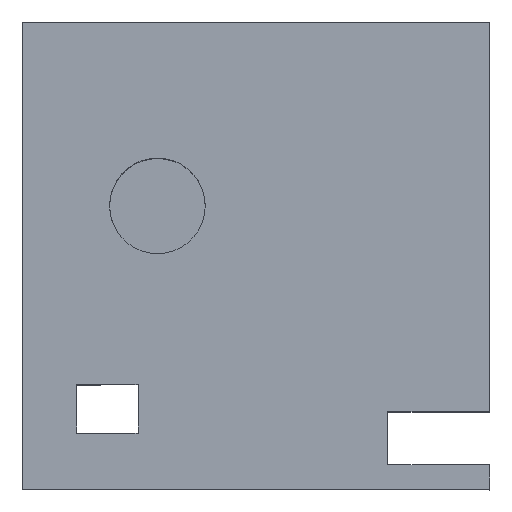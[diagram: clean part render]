
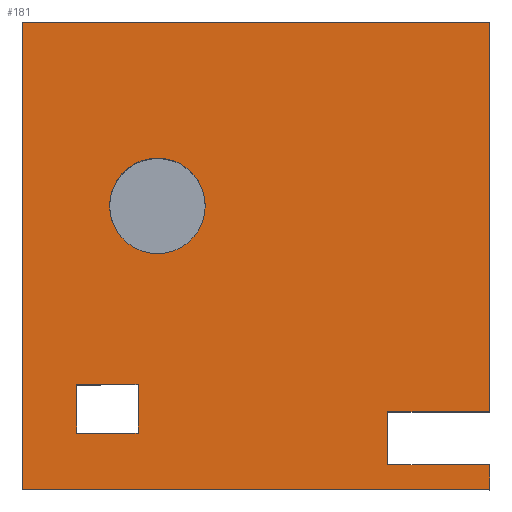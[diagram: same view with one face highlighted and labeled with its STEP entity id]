
A CAD part, top view. The second image highlights one B-rep face of the part: STEP entity #181.
In plain terms, the highlighted planar face has unit normal (0, 0, 1).
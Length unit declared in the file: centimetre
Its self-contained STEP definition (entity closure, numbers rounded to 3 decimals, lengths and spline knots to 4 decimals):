
#2 = LINE ( 'NONE', #555, #826 ) ;
#7 = EDGE_CURVE ( 'NONE', #724, #1036, #436, .T. ) ;
#19 = DIRECTION ( 'NONE',  ( 0., 1., 0. ) ) ;
#39 = ORIENTED_EDGE ( 'NONE', *, *, #7, .T. ) ;
#41 = LINE ( 'NONE', #58, #55 ) ;
#54 = LINE ( 'NONE', #763, #896 ) ;
#55 = VECTOR ( 'NONE', #164, 100. ) ;
#58 = CARTESIAN_POINT ( 'NONE',  ( 116.3312, 120.2138, 1000. ) ) ;
#68 = VERTEX_POINT ( 'NONE', #868 ) ;
#75 = LINE ( 'NONE', #497, #447 ) ;
#89 = VERTEX_POINT ( 'NONE', #1447 ) ;
#126 = EDGE_CURVE ( 'NONE', #89, #1160, #1143, .T. ) ;
#134 = LINE ( 'NONE', #1253, #885 ) ;
#144 = ORIENTED_EDGE ( 'NONE', *, *, #448, .F. ) ;
#157 = CARTESIAN_POINT ( 'NONE',  ( 1000., 1000., 1000. ) ) ;
#162 = AXIS2_PLACEMENT_3D ( 'NONE', #1196, #917, #492 ) ;
#164 = DIRECTION ( 'NONE',  ( 1., 0., 0. ) ) ;
#181 = ADVANCED_FACE ( 'NONE', ( #703, #265, #402 ), #962, .T. ) ;
#199 = VECTOR ( 'NONE', #708, 100. ) ;
#205 = ORIENTED_EDGE ( 'NONE', *, *, #718, .T. ) ;
#250 = EDGE_CURVE ( 'NONE', #1476, #1177, #1538, .T. ) ;
#253 = CARTESIAN_POINT ( 'NONE',  ( 1000., 166.403, 1000. ) ) ;
#265 = FACE_BOUND ( 'NONE', #558, .T. ) ;
#272 = EDGE_CURVE ( 'NONE', #324, #1565, #2, .T. ) ;
#303 = DIRECTION ( 'NONE',  ( -1., 0., 0. ) ) ;
#324 = VERTEX_POINT ( 'NONE', #355 ) ;
#340 = ORIENTED_EDGE ( 'NONE', *, *, #1600, .F. ) ;
#355 = CARTESIAN_POINT ( 'NONE',  ( 0., 0., 1000. ) ) ;
#402 = FACE_BOUND ( 'NONE', #1264, .T. ) ;
#412 = CARTESIAN_POINT ( 'NONE',  ( 247.5059, 120.2138, 1000. ) ) ;
#436 = LINE ( 'NONE', #720, #676 ) ;
#447 = VECTOR ( 'NONE', #628, 100. ) ;
#448 = EDGE_CURVE ( 'NONE', #1141, #919, #768, .T. ) ;
#451 = EDGE_CURVE ( 'NONE', #1299, #878, #523, .T. ) ;
#452 = ORIENTED_EDGE ( 'NONE', *, *, #250, .F. ) ;
#460 = EDGE_LOOP ( 'NONE', ( #1357, #205, #39, #1367, #1505, #493, #771, #1197 ) ) ;
#492 = DIRECTION ( 'NONE',  ( 1., 0., 0. ) ) ;
#493 = ORIENTED_EDGE ( 'NONE', *, *, #1085, .T. ) ;
#497 = CARTESIAN_POINT ( 'NONE',  ( 782.0774, 52.6347, 1000. ) ) ;
#501 = AXIS2_PLACEMENT_3D ( 'NONE', #821, #1510, #537 ) ;
#508 = CARTESIAN_POINT ( 'NONE',  ( 782.0774, 166.403, 1000. ) ) ;
#523 = LINE ( 'NONE', #1081, #1005 ) ;
#526 = EDGE_CURVE ( 'NONE', #1716, #68, #134, .T. ) ;
#537 = DIRECTION ( 'NONE',  ( 1., 0., 0. ) ) ;
#555 = CARTESIAN_POINT ( 'NONE',  ( 0., 0., 1000. ) ) ;
#558 = EDGE_LOOP ( 'NONE', ( #452, #712, #1232, #340 ) ) ;
#561 = CARTESIAN_POINT ( 'NONE',  ( 0., 1000., 1000. ) ) ;
#563 = AXIS2_PLACEMENT_3D ( 'NONE', #1740, #932, #764 ) ;
#580 = CARTESIAN_POINT ( 'NONE',  ( 1000., 1000., 1000. ) ) ;
#600 = CARTESIAN_POINT ( 'NONE',  ( 0., 1000., 1000. ) ) ;
#626 = DIRECTION ( 'NONE',  ( -1., 0., 0. ) ) ;
#628 = DIRECTION ( 'NONE',  ( 0., 1., 0. ) ) ;
#637 = EDGE_CURVE ( 'NONE', #919, #1141, #947, .T. ) ;
#676 = VECTOR ( 'NONE', #1286, 100. ) ;
#703 = FACE_OUTER_BOUND ( 'NONE', #460, .T. ) ;
#708 = DIRECTION ( 'NONE',  ( 0., 1., 0. ) ) ;
#712 = ORIENTED_EDGE ( 'NONE', *, *, #1234, .F. ) ;
#718 = EDGE_CURVE ( 'NONE', #68, #724, #75, .T. ) ;
#719 = CARTESIAN_POINT ( 'NONE',  ( 116.3312, 120.2138, 1000. ) ) ;
#720 = CARTESIAN_POINT ( 'NONE',  ( 782.0774, 166.403, 1000. ) ) ;
#724 = VERTEX_POINT ( 'NONE', #508 ) ;
#763 = CARTESIAN_POINT ( 'NONE',  ( 116.3312, 224.5192, 1000. ) ) ;
#764 = DIRECTION ( 'NONE',  ( 1., 0., 0. ) ) ;
#768 = CIRCLE ( 'NONE', #162, 102.3219 ) ;
#771 = ORIENTED_EDGE ( 'NONE', *, *, #272, .T. ) ;
#821 = CARTESIAN_POINT ( 'NONE',  ( 0., 0., 1000. ) ) ;
#823 = DIRECTION ( 'NONE',  ( -1., 0., 0. ) ) ;
#826 = VECTOR ( 'NONE', #1548, 100. ) ;
#857 = VECTOR ( 'NONE', #1658, 100. ) ;
#868 = CARTESIAN_POINT ( 'NONE',  ( 782.0774, 52.6347, 1000. ) ) ;
#875 = DIRECTION ( 'NONE',  ( 0., -1., 0. ) ) ;
#878 = VERTEX_POINT ( 'NONE', #1814 ) ;
#883 = LINE ( 'NONE', #157, #199 ) ;
#885 = VECTOR ( 'NONE', #823, 100. ) ;
#896 = VECTOR ( 'NONE', #626, 100. ) ;
#917 = DIRECTION ( 'NONE',  ( 0., 0., 1. ) ) ;
#919 = VERTEX_POINT ( 'NONE', #1507 ) ;
#932 = DIRECTION ( 'NONE',  ( 0., 0., 1. ) ) ;
#947 = CIRCLE ( 'NONE', #563, 102.3219 ) ;
#962 = PLANE ( 'NONE',  #501 ) ;
#970 = CARTESIAN_POINT ( 'NONE',  ( 116.3312, 224.5192, 1000. ) ) ;
#1005 = VECTOR ( 'NONE', #1374, 100. ) ;
#1006 = CARTESIAN_POINT ( 'NONE',  ( 0., 1000., 1000. ) ) ;
#1036 = VERTEX_POINT ( 'NONE', #253 ) ;
#1081 = CARTESIAN_POINT ( 'NONE',  ( 247.5059, 120.2138, 1000. ) ) ;
#1085 = EDGE_CURVE ( 'NONE', #1160, #324, #1455, .T. ) ;
#1121 = CARTESIAN_POINT ( 'NONE',  ( 186.7683, 606.4456, 1000. ) ) ;
#1141 = VERTEX_POINT ( 'NONE', #1121 ) ;
#1143 = LINE ( 'NONE', #1006, #1391 ) ;
#1160 = VERTEX_POINT ( 'NONE', #600 ) ;
#1177 = VERTEX_POINT ( 'NONE', #719 ) ;
#1179 = EDGE_CURVE ( 'NONE', #1036, #89, #883, .T. ) ;
#1192 = EDGE_CURVE ( 'NONE', #1565, #1716, #1276, .T. ) ;
#1196 = CARTESIAN_POINT ( 'NONE',  ( 289.0903, 606.4456, 1000. ) ) ;
#1197 = ORIENTED_EDGE ( 'NONE', *, *, #1192, .T. ) ;
#1232 = ORIENTED_EDGE ( 'NONE', *, *, #451, .F. ) ;
#1234 = EDGE_CURVE ( 'NONE', #878, #1476, #54, .T. ) ;
#1253 = CARTESIAN_POINT ( 'NONE',  ( 782.0774, 52.6347, 1000. ) ) ;
#1256 = VECTOR ( 'NONE', #875, 100. ) ;
#1264 = EDGE_LOOP ( 'NONE', ( #1724, #144 ) ) ;
#1276 = LINE ( 'NONE', #580, #1553 ) ;
#1286 = DIRECTION ( 'NONE',  ( 1., 0., 0. ) ) ;
#1299 = VERTEX_POINT ( 'NONE', #412 ) ;
#1357 = ORIENTED_EDGE ( 'NONE', *, *, #526, .T. ) ;
#1367 = ORIENTED_EDGE ( 'NONE', *, *, #1179, .T. ) ;
#1372 = CARTESIAN_POINT ( 'NONE',  ( 116.3312, 120.2138, 1000. ) ) ;
#1374 = DIRECTION ( 'NONE',  ( 0., 1., 0. ) ) ;
#1391 = VECTOR ( 'NONE', #303, 100. ) ;
#1447 = CARTESIAN_POINT ( 'NONE',  ( 1000., 1000., 1000. ) ) ;
#1453 = CARTESIAN_POINT ( 'NONE',  ( 1000., 0., 1000. ) ) ;
#1455 = LINE ( 'NONE', #561, #1256 ) ;
#1476 = VERTEX_POINT ( 'NONE', #970 ) ;
#1505 = ORIENTED_EDGE ( 'NONE', *, *, #126, .T. ) ;
#1507 = CARTESIAN_POINT ( 'NONE',  ( 391.4122, 606.4456, 1000. ) ) ;
#1510 = DIRECTION ( 'NONE',  ( 0., 0., 1. ) ) ;
#1538 = LINE ( 'NONE', #1372, #857 ) ;
#1548 = DIRECTION ( 'NONE',  ( 1., 0., 0. ) ) ;
#1553 = VECTOR ( 'NONE', #19, 100. ) ;
#1565 = VERTEX_POINT ( 'NONE', #1453 ) ;
#1571 = CARTESIAN_POINT ( 'NONE',  ( 1000., 52.6347, 1000. ) ) ;
#1600 = EDGE_CURVE ( 'NONE', #1177, #1299, #41, .T. ) ;
#1658 = DIRECTION ( 'NONE',  ( 0., -1., 0. ) ) ;
#1716 = VERTEX_POINT ( 'NONE', #1571 ) ;
#1724 = ORIENTED_EDGE ( 'NONE', *, *, #637, .F. ) ;
#1740 = CARTESIAN_POINT ( 'NONE',  ( 289.0903, 606.4456, 1000. ) ) ;
#1814 = CARTESIAN_POINT ( 'NONE',  ( 247.5059, 224.5192, 1000. ) ) ;
